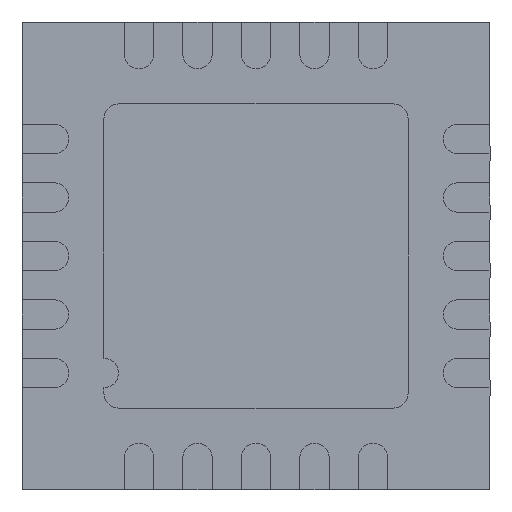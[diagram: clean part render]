
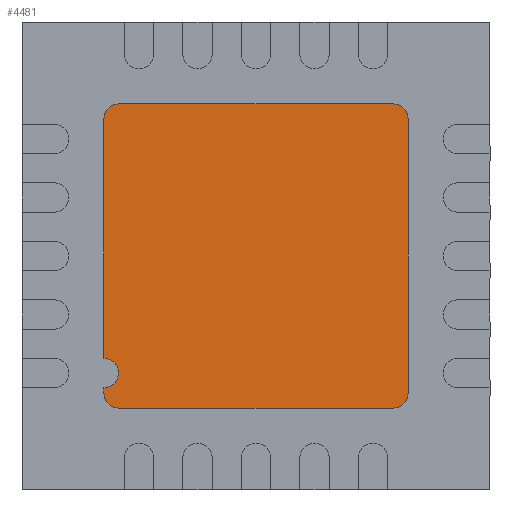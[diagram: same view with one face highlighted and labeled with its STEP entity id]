
A CAD part, front view. The second image highlights one B-rep face of the part: STEP entity #4481.
In plain terms, the highlighted planar face has unit normal (0, -1, 0).
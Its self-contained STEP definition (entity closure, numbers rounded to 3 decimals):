
#17 = VERTEX_POINT ( 'NONE', #2154 ) ;
#24 = EDGE_CURVE ( 'NONE', #6217, #6095, #6702, .T. ) ;
#26 = CIRCLE ( 'NONE', #4086, 0.125 ) ;
#90 = ORIENTED_EDGE ( 'NONE', *, *, #24, .T. ) ;
#94 = ORIENTED_EDGE ( 'NONE', *, *, #739, .T. ) ;
#100 = CARTESIAN_POINT ( 'NONE',  ( 1.175, 0., 1.175 ) ) ;
#208 = LINE ( 'NONE', #688, #4202 ) ;
#240 = DIRECTION ( 'NONE',  ( 0., 0., -1. ) ) ;
#327 = AXIS2_PLACEMENT_3D ( 'NONE', #6149, #439, #513 ) ;
#356 = EDGE_LOOP ( 'NONE', ( #5534, #94, #4133, #1653, #3549, #6044, #4236, #90, #4426, #6711 ) ) ;
#431 = CARTESIAN_POINT ( 'NONE',  ( 1.175, 0., -1.3 ) ) ;
#439 = DIRECTION ( 'NONE',  ( 0., -1., 0. ) ) ;
#499 = CIRCLE ( 'NONE', #6156, 0.125 ) ;
#513 = DIRECTION ( 'NONE',  ( 0., 0., -1. ) ) ;
#532 = DIRECTION ( 'NONE',  ( -1., 0., 0. ) ) ;
#688 = CARTESIAN_POINT ( 'NONE',  ( 1.3, 0., -1.175 ) ) ;
#695 = CIRCLE ( 'NONE', #327, 0.125 ) ;
#727 = DIRECTION ( 'NONE',  ( 0., -1., 0. ) ) ;
#739 = EDGE_CURVE ( 'NONE', #808, #2722, #6255, .T. ) ;
#808 = VERTEX_POINT ( 'NONE', #4729 ) ;
#1181 = CARTESIAN_POINT ( 'NONE',  ( -1.175, 0., -1.3 ) ) ;
#1276 = VECTOR ( 'NONE', #3388, 1000. ) ;
#1360 = CARTESIAN_POINT ( 'NONE',  ( -1.3, 0., -1.125 ) ) ;
#1571 = EDGE_CURVE ( 'NONE', #2518, #17, #5505, .T. ) ;
#1651 = DIRECTION ( 'NONE',  ( 1., 0., 0. ) ) ;
#1653 = ORIENTED_EDGE ( 'NONE', *, *, #1571, .T. ) ;
#1831 = VECTOR ( 'NONE', #532, 1000. ) ;
#1865 = DIRECTION ( 'NONE',  ( 0., 0., 1. ) ) ;
#1876 = CIRCLE ( 'NONE', #5182, 0.125 ) ;
#1906 = DIRECTION ( 'NONE',  ( 0., -1., 0. ) ) ;
#1947 = CARTESIAN_POINT ( 'NONE',  ( 1.175, 0., 1.175 ) ) ;
#2026 = DIRECTION ( 'NONE',  ( 0., 0., -1. ) ) ;
#2113 = CARTESIAN_POINT ( 'NONE',  ( -1.3, 0., -1.175 ) ) ;
#2154 = CARTESIAN_POINT ( 'NONE',  ( -1.3, 0., -0.875 ) ) ;
#2386 = CARTESIAN_POINT ( 'NONE',  ( -1.175, 0., 1.175 ) ) ;
#2518 = VERTEX_POINT ( 'NONE', #3909 ) ;
#2550 = EDGE_CURVE ( 'NONE', #2722, #2518, #499, .T. ) ;
#2653 = CARTESIAN_POINT ( 'NONE',  ( 1.3, 0., 1.175 ) ) ;
#2722 = VERTEX_POINT ( 'NONE', #4825 ) ;
#2812 = CARTESIAN_POINT ( 'NONE',  ( -1.3, 0., -0.875 ) ) ;
#3173 = EDGE_CURVE ( 'NONE', #5779, #6798, #208, .T. ) ;
#3342 = VERTEX_POINT ( 'NONE', #1360 ) ;
#3350 = VERTEX_POINT ( 'NONE', #6009 ) ;
#3388 = DIRECTION ( 'NONE',  ( 0., 0., -1. ) ) ;
#3433 = CIRCLE ( 'NONE', #5557, 0.125 ) ;
#3549 = ORIENTED_EDGE ( 'NONE', *, *, #6357, .T. ) ;
#3609 = CARTESIAN_POINT ( 'NONE',  ( -1.175, 0., -1.175 ) ) ;
#3909 = CARTESIAN_POINT ( 'NONE',  ( -1.3, 0., 1.175 ) ) ;
#3971 = VECTOR ( 'NONE', #5775, 1000. ) ;
#3982 = CARTESIAN_POINT ( 'NONE',  ( 1.175, 0., 1.3 ) ) ;
#4086 = AXIS2_PLACEMENT_3D ( 'NONE', #3609, #727, #4779 ) ;
#4133 = ORIENTED_EDGE ( 'NONE', *, *, #2550, .T. ) ;
#4171 = DIRECTION ( 'NONE',  ( 0., 0., -1. ) ) ;
#4202 = VECTOR ( 'NONE', #1865, 1000. ) ;
#4236 = ORIENTED_EDGE ( 'NONE', *, *, #5110, .T. ) ;
#4309 = CARTESIAN_POINT ( 'NONE',  ( 1.3, 0., -1.175 ) ) ;
#4368 = LINE ( 'NONE', #2113, #1276 ) ;
#4426 = ORIENTED_EDGE ( 'NONE', *, *, #6906, .T. ) ;
#4469 = CARTESIAN_POINT ( 'NONE',  ( 1.175, 0., -1.3 ) ) ;
#4481 = ADVANCED_FACE ( 'NONE', ( #6867 ), #5391, .T. ) ;
#4729 = CARTESIAN_POINT ( 'NONE',  ( 1.175, 0., 1.3 ) ) ;
#4779 = DIRECTION ( 'NONE',  ( 0., 0., 1. ) ) ;
#4825 = CARTESIAN_POINT ( 'NONE',  ( -1.175, 0., 1.3 ) ) ;
#5110 = EDGE_CURVE ( 'NONE', #3350, #6217, #26, .T. ) ;
#5182 = AXIS2_PLACEMENT_3D ( 'NONE', #6021, #5459, #240 ) ;
#5305 = VECTOR ( 'NONE', #1651, 1000. ) ;
#5391 = PLANE ( 'NONE',  #5660 ) ;
#5459 = DIRECTION ( 'NONE',  ( 0., 1., 0. ) ) ;
#5505 = LINE ( 'NONE', #2812, #3971 ) ;
#5534 = ORIENTED_EDGE ( 'NONE', *, *, #6710, .T. ) ;
#5557 = AXIS2_PLACEMENT_3D ( 'NONE', #1947, #5986, #2026 ) ;
#5660 = AXIS2_PLACEMENT_3D ( 'NONE', #100, #1906, #5953 ) ;
#5775 = DIRECTION ( 'NONE',  ( 0., 0., -1. ) ) ;
#5779 = VERTEX_POINT ( 'NONE', #4309 ) ;
#5855 = DIRECTION ( 'NONE',  ( 0., -1., 0. ) ) ;
#5953 = DIRECTION ( 'NONE',  ( 0., 0., -1. ) ) ;
#5969 = EDGE_CURVE ( 'NONE', #3342, #3350, #4368, .T. ) ;
#5986 = DIRECTION ( 'NONE',  ( 0., -1., 0. ) ) ;
#6009 = CARTESIAN_POINT ( 'NONE',  ( -1.3, 0., -1.175 ) ) ;
#6021 = CARTESIAN_POINT ( 'NONE',  ( -1.3, 0., -1. ) ) ;
#6044 = ORIENTED_EDGE ( 'NONE', *, *, #5969, .T. ) ;
#6095 = VERTEX_POINT ( 'NONE', #431 ) ;
#6149 = CARTESIAN_POINT ( 'NONE',  ( 1.175, 0., -1.175 ) ) ;
#6156 = AXIS2_PLACEMENT_3D ( 'NONE', #2386, #5855, #4171 ) ;
#6217 = VERTEX_POINT ( 'NONE', #1181 ) ;
#6255 = LINE ( 'NONE', #3982, #1831 ) ;
#6357 = EDGE_CURVE ( 'NONE', #17, #3342, #1876, .T. ) ;
#6702 = LINE ( 'NONE', #4469, #5305 ) ;
#6710 = EDGE_CURVE ( 'NONE', #6798, #808, #3433, .T. ) ;
#6711 = ORIENTED_EDGE ( 'NONE', *, *, #3173, .T. ) ;
#6798 = VERTEX_POINT ( 'NONE', #2653 ) ;
#6867 = FACE_OUTER_BOUND ( 'NONE', #356, .T. ) ;
#6906 = EDGE_CURVE ( 'NONE', #6095, #5779, #695, .T. ) ;
